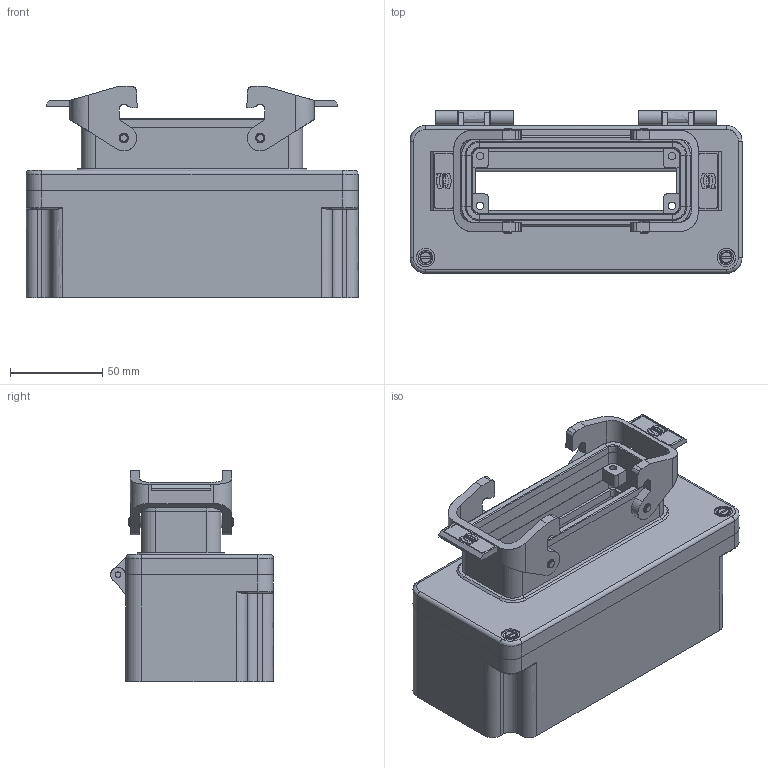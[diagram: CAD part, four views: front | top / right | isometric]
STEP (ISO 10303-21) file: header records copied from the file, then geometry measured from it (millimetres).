
FILE_DESCRIPTION( ( 'STEP AP214' ), '1' );
FILE_NAME( 'C:/Visi131/Interfaces/gr_2_24e-a.stp', '2006-08-27T07:27:57', ( ' ' ), ( ' ' ), 'XStep 1.0', 'VISICAD', ' ' );
FILE_SCHEMA( ( 'automotive_design' ) );
Length unit declared in the file: millimetre
Products named in the file (1162): 1; 2; 3; 4; 5; 6; 7; 8; 9; 10; 11; 12; 13; 14; 15; 16; 17; 18; 19; 20; 21; 22; 23; 24; 25; 26; 27; 28; 29; 30; 31; 32; 33; 34; 35; 36; 37; 38; 39; 40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
Bounding box: 180 x 88.2 x 114.6 mm (x, y, z)
Surface area: 155130 mm2 (no closed solid volume)
Topology: 0 solids, 1162 shells, 1162 faces, 5941 edges, 5933 vertices
Faces by surface type: plane 630, bspline 241, revolution 203, cylinder 88
Full cylindrical faces by diameter (mm): 0.76 x2, 0.84 x2, 5.1 x4
Entity records: 121314 total; most frequent: CARTESIAN_POINT 50364, DIRECTION 8963, ORIENTED_EDGE 5933, EDGE_CURVE 5933, VERTEX_POINT 5933, LINE 3740, VECTOR 3740, AXIS2_PLACEMENT_3D 2510
